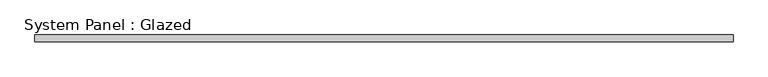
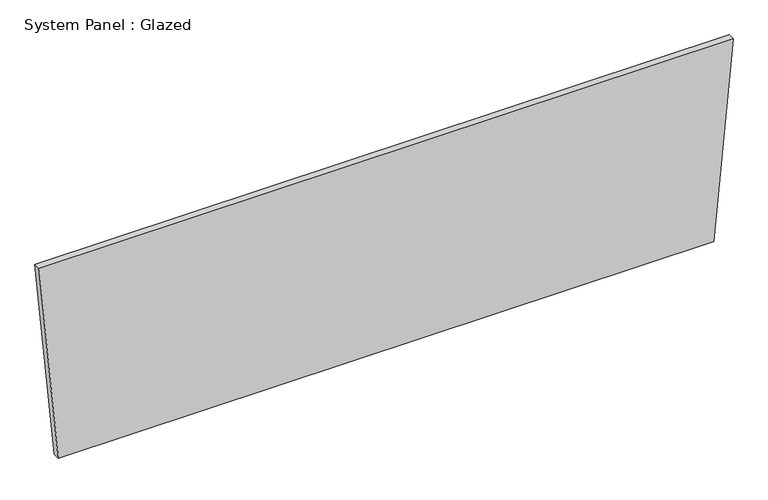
"""IFC4 building model written with IfcOpenShell, lengths in millimetres: plate geometry, System Panel : Glazed."""

from ifc_helpers import new_model, si_unit, frame, origin, place, context, project, spatial, polyline, outline, extrude, source, transform, mapped, element, save


def system_panel_glazed_52904192(model_context):
    return source(origin(), model_context, "Body", "SweptSolid", [
        extrude(outline(polyline([(0.0, -1197.5977237), (0.0, 1197.5977237), (758.7366017, 1268.0446486), (758.7366017, -1268.0446486), (0.0, -1197.5977237)])), frame((0.0, -44.45, 0.0), z_axis=(0.0, 1.0, 0.0), x_axis=(0.0, 0.0, 1.0)), (0.0, 0.0, 1.0), 25.4),
    ])


if __name__ == "__main__":
    model = new_model("IFC4")
    model_context = context("Model", 3, world=origin())
    ifc_project = project(units=[si_unit("LENGTHUNIT", "METRE", prefix="MILLI")], contexts=[model_context])
    site = spatial("IfcSite", under=ifc_project)
    building = spatial("IfcBuilding", under=site)
    placement = place(None, origin())
    system_panel_glazed_shape = system_panel_glazed_52904192(model_context)
    element("IfcPlate", 1, ObjectType="System Panel : Glazed", at=placement, inside=building, context=model_context, shape_type="MappedRepresentation", body=[
        mapped(system_panel_glazed_shape, transform((0.0, 0.0, 0.0), x_axis=(1.0, 0.0, 0.0), y_axis=(0.0, 1.0, 0.0), z_axis=(0.0, 0.0, 1.0))),
    ])
    save(model, "model.ifc")
